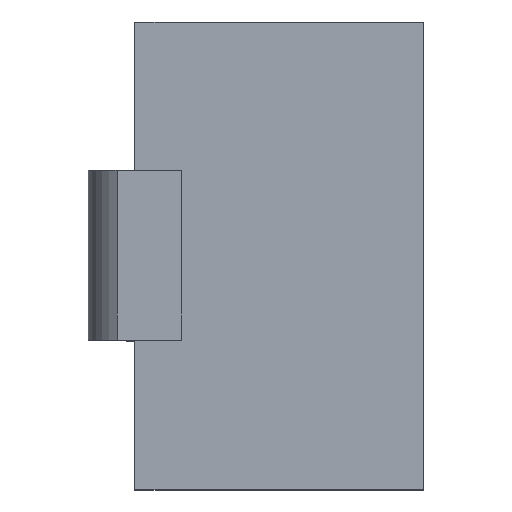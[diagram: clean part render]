
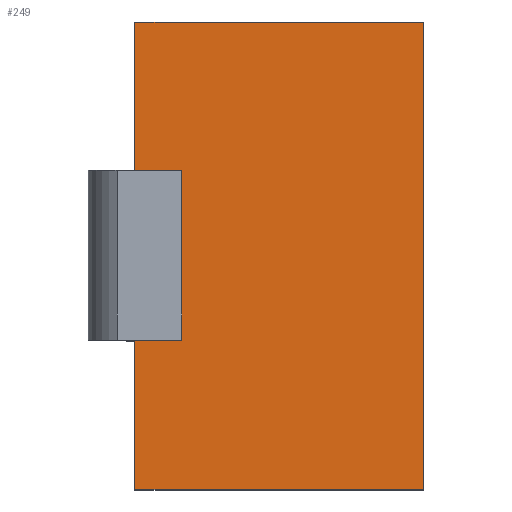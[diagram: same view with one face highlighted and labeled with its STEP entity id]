
A CAD part, top view. The second image highlights one B-rep face of the part: STEP entity #249.
In plain terms, the highlighted planar face has unit normal (0, 0, 1).
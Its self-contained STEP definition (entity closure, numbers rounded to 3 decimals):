
#21 = EDGE_CURVE('',#22,#24,#26,.T.);
#22 = VERTEX_POINT('',#23);
#23 = CARTESIAN_POINT('',(-32.5,4.5,4.85));
#24 = VERTEX_POINT('',#25);
#25 = CARTESIAN_POINT('',(-32.5,15.5,4.85));
#26 = SURFACE_CURVE('',#27,(#31,#43),.PCURVE_S1.);
#27 = LINE('',#28,#29);
#28 = CARTESIAN_POINT('',(-32.5,4.5,4.85));
#29 = VECTOR('',#30,1.);
#30 = DIRECTION('',(0.,1.,0.));
#31 = PCURVE('',#32,#37);
#32 = PLANE('',#33);
#33 = AXIS2_PLACEMENT_3D('',#34,#35,#36);
#34 = CARTESIAN_POINT('',(-32.5,4.5,-5.45));
#35 = DIRECTION('',(-1.,-0.,-0.));
#36 = DIRECTION('',(0.,0.,-1.));
#37 = DEFINITIONAL_REPRESENTATION('',(#38),#42);
#38 = LINE('',#39,#40);
#39 = CARTESIAN_POINT('',(-10.3,-0.));
#40 = VECTOR('',#41,1.);
#41 = DIRECTION('',(-0.,-1.));
#42 = ( GEOMETRIC_REPRESENTATION_CONTEXT(2) 
PARAMETRIC_REPRESENTATION_CONTEXT() REPRESENTATION_CONTEXT('2D SPACE',''
  ) );
#43 = PCURVE('',#44,#49);
#44 = PLANE('',#45);
#45 = AXIS2_PLACEMENT_3D('',#46,#47,#48);
#46 = CARTESIAN_POINT('',(-32.5,4.5,4.85));
#47 = DIRECTION('',(0.,0.,1.));
#48 = DIRECTION('',(1.,0.,0.));
#49 = DEFINITIONAL_REPRESENTATION('',(#50),#54);
#50 = LINE('',#51,#52);
#51 = CARTESIAN_POINT('',(0.,-0.));
#52 = VECTOR('',#53,1.);
#53 = DIRECTION('',(-0.,1.));
#54 = ( GEOMETRIC_REPRESENTATION_CONTEXT(2) 
PARAMETRIC_REPRESENTATION_CONTEXT() REPRESENTATION_CONTEXT('2D SPACE',''
  ) );
#72 = PLANE('',#73);
#73 = AXIS2_PLACEMENT_3D('',#74,#75,#76);
#74 = CARTESIAN_POINT('',(-32.5,4.5,-5.45));
#75 = DIRECTION('',(0.,1.,0.));
#76 = DIRECTION('',(0.,0.,-1.));
#238 = PLANE('',#239);
#239 = AXIS2_PLACEMENT_3D('',#240,#241,#242);
#240 = CARTESIAN_POINT('',(-32.5,15.5,-5.45));
#241 = DIRECTION('',(0.,1.,0.));
#242 = DIRECTION('',(0.,0.,-1.));
#249 = ADVANCED_FACE('',(#250),#44,.T.);
#250 = FACE_BOUND('',#251,.F.);
#251 = EDGE_LOOP('',(#252,#275,#276,#299,#327,#355,#383,#411));
#252 = ORIENTED_EDGE('',*,*,#253,.F.);
#253 = EDGE_CURVE('',#24,#254,#256,.T.);
#254 = VERTEX_POINT('',#255);
#255 = CARTESIAN_POINT('',(-39.3,15.5,4.85));
#256 = SURFACE_CURVE('',#257,(#261,#268),.PCURVE_S1.);
#257 = LINE('',#258,#259);
#258 = CARTESIAN_POINT('',(-32.5,15.5,4.85));
#259 = VECTOR('',#260,1.);
#260 = DIRECTION('',(-1.,-0.,-0.));
#261 = PCURVE('',#44,#262);
#262 = DEFINITIONAL_REPRESENTATION('',(#263),#267);
#263 = LINE('',#264,#265);
#264 = CARTESIAN_POINT('',(0.,11.));
#265 = VECTOR('',#266,1.);
#266 = DIRECTION('',(-1.,0.));
#267 = ( GEOMETRIC_REPRESENTATION_CONTEXT(2) 
PARAMETRIC_REPRESENTATION_CONTEXT() REPRESENTATION_CONTEXT('2D SPACE',''
  ) );
#268 = PCURVE('',#238,#269);
#269 = DEFINITIONAL_REPRESENTATION('',(#270),#274);
#270 = LINE('',#271,#272);
#271 = CARTESIAN_POINT('',(-10.3,-0.));
#272 = VECTOR('',#273,1.);
#273 = DIRECTION('',(-0.,1.));
#274 = ( GEOMETRIC_REPRESENTATION_CONTEXT(2) 
PARAMETRIC_REPRESENTATION_CONTEXT() REPRESENTATION_CONTEXT('2D SPACE',''
  ) );
#275 = ORIENTED_EDGE('',*,*,#21,.F.);
#276 = ORIENTED_EDGE('',*,*,#277,.T.);
#277 = EDGE_CURVE('',#22,#278,#280,.T.);
#278 = VERTEX_POINT('',#279);
#279 = CARTESIAN_POINT('',(-39.3,4.5,4.85));
#280 = SURFACE_CURVE('',#281,(#285,#292),.PCURVE_S1.);
#281 = LINE('',#282,#283);
#282 = CARTESIAN_POINT('',(-32.5,4.5,4.85));
#283 = VECTOR('',#284,1.);
#284 = DIRECTION('',(-1.,-0.,-0.));
#285 = PCURVE('',#44,#286);
#286 = DEFINITIONAL_REPRESENTATION('',(#287),#291);
#287 = LINE('',#288,#289);
#288 = CARTESIAN_POINT('',(0.,-0.));
#289 = VECTOR('',#290,1.);
#290 = DIRECTION('',(-1.,0.));
#291 = ( GEOMETRIC_REPRESENTATION_CONTEXT(2) 
PARAMETRIC_REPRESENTATION_CONTEXT() REPRESENTATION_CONTEXT('2D SPACE',''
  ) );
#292 = PCURVE('',#72,#293);
#293 = DEFINITIONAL_REPRESENTATION('',(#294),#298);
#294 = LINE('',#295,#296);
#295 = CARTESIAN_POINT('',(-10.3,-0.));
#296 = VECTOR('',#297,1.);
#297 = DIRECTION('',(-0.,1.));
#298 = ( GEOMETRIC_REPRESENTATION_CONTEXT(2) 
PARAMETRIC_REPRESENTATION_CONTEXT() REPRESENTATION_CONTEXT('2D SPACE',''
  ) );
#299 = ORIENTED_EDGE('',*,*,#300,.T.);
#300 = EDGE_CURVE('',#278,#301,#303,.T.);
#301 = VERTEX_POINT('',#302);
#302 = CARTESIAN_POINT('',(-39.3,8.,4.85));
#303 = SURFACE_CURVE('',#304,(#308,#315),.PCURVE_S1.);
#304 = LINE('',#305,#306);
#305 = CARTESIAN_POINT('',(-39.3,4.5,4.85));
#306 = VECTOR('',#307,1.);
#307 = DIRECTION('',(0.,1.,0.));
#308 = PCURVE('',#44,#309);
#309 = DEFINITIONAL_REPRESENTATION('',(#310),#314);
#310 = LINE('',#311,#312);
#311 = CARTESIAN_POINT('',(-6.8,0.));
#312 = VECTOR('',#313,1.);
#313 = DIRECTION('',(-0.,1.));
#314 = ( GEOMETRIC_REPRESENTATION_CONTEXT(2) 
PARAMETRIC_REPRESENTATION_CONTEXT() REPRESENTATION_CONTEXT('2D SPACE',''
  ) );
#315 = PCURVE('',#316,#321);
#316 = PLANE('',#317);
#317 = AXIS2_PLACEMENT_3D('',#318,#319,#320);
#318 = CARTESIAN_POINT('',(-39.3,4.5,-5.45));
#319 = DIRECTION('',(-1.,-0.,-0.));
#320 = DIRECTION('',(0.,0.,-1.));
#321 = DEFINITIONAL_REPRESENTATION('',(#322),#326);
#322 = LINE('',#323,#324);
#323 = CARTESIAN_POINT('',(-10.3,-0.));
#324 = VECTOR('',#325,1.);
#325 = DIRECTION('',(-0.,-1.));
#326 = ( GEOMETRIC_REPRESENTATION_CONTEXT(2) 
PARAMETRIC_REPRESENTATION_CONTEXT() REPRESENTATION_CONTEXT('2D SPACE',''
  ) );
#327 = ORIENTED_EDGE('',*,*,#328,.T.);
#328 = EDGE_CURVE('',#301,#329,#331,.T.);
#329 = VERTEX_POINT('',#330);
#330 = CARTESIAN_POINT('',(-38.2,8.,4.85));
#331 = SURFACE_CURVE('',#332,(#336,#343),.PCURVE_S1.);
#332 = LINE('',#333,#334);
#333 = CARTESIAN_POINT('',(-35.35,8.,4.85));
#334 = VECTOR('',#335,1.);
#335 = DIRECTION('',(1.,-0.,-0.));
#336 = PCURVE('',#44,#337);
#337 = DEFINITIONAL_REPRESENTATION('',(#338),#342);
#338 = LINE('',#339,#340);
#339 = CARTESIAN_POINT('',(-2.85,3.5));
#340 = VECTOR('',#341,1.);
#341 = DIRECTION('',(1.,-0.));
#342 = ( GEOMETRIC_REPRESENTATION_CONTEXT(2) 
PARAMETRIC_REPRESENTATION_CONTEXT() REPRESENTATION_CONTEXT('2D SPACE',''
  ) );
#343 = PCURVE('',#344,#349);
#344 = PLANE('',#345);
#345 = AXIS2_PLACEMENT_3D('',#346,#347,#348);
#346 = CARTESIAN_POINT('',(-38.2,8.,3.88));
#347 = DIRECTION('',(-0.,1.,-0.));
#348 = DIRECTION('',(0.,0.,-1.));
#349 = DEFINITIONAL_REPRESENTATION('',(#350),#354);
#350 = LINE('',#351,#352);
#351 = CARTESIAN_POINT('',(-0.97,-2.85));
#352 = VECTOR('',#353,1.);
#353 = DIRECTION('',(-0.,-1.));
#354 = ( GEOMETRIC_REPRESENTATION_CONTEXT(2) 
PARAMETRIC_REPRESENTATION_CONTEXT() REPRESENTATION_CONTEXT('2D SPACE',''
  ) );
#355 = ORIENTED_EDGE('',*,*,#356,.T.);
#356 = EDGE_CURVE('',#329,#357,#359,.T.);
#357 = VERTEX_POINT('',#358);
#358 = CARTESIAN_POINT('',(-38.2,12.,4.85));
#359 = SURFACE_CURVE('',#360,(#364,#371),.PCURVE_S1.);
#360 = LINE('',#361,#362);
#361 = CARTESIAN_POINT('',(-38.2,6.25,4.85));
#362 = VECTOR('',#363,1.);
#363 = DIRECTION('',(-0.,1.,-0.));
#364 = PCURVE('',#44,#365);
#365 = DEFINITIONAL_REPRESENTATION('',(#366),#370);
#366 = LINE('',#367,#368);
#367 = CARTESIAN_POINT('',(-5.7,1.75));
#368 = VECTOR('',#369,1.);
#369 = DIRECTION('',(0.,1.));
#370 = ( GEOMETRIC_REPRESENTATION_CONTEXT(2) 
PARAMETRIC_REPRESENTATION_CONTEXT() REPRESENTATION_CONTEXT('2D SPACE',''
  ) );
#371 = PCURVE('',#372,#377);
#372 = PLANE('',#373);
#373 = AXIS2_PLACEMENT_3D('',#374,#375,#376);
#374 = CARTESIAN_POINT('',(-38.2,8.,3.88));
#375 = DIRECTION('',(-1.,-0.,-0.));
#376 = DIRECTION('',(0.,0.,-1.));
#377 = DEFINITIONAL_REPRESENTATION('',(#378),#382);
#378 = LINE('',#379,#380);
#379 = CARTESIAN_POINT('',(-0.97,1.75));
#380 = VECTOR('',#381,1.);
#381 = DIRECTION('',(-0.,-1.));
#382 = ( GEOMETRIC_REPRESENTATION_CONTEXT(2) 
PARAMETRIC_REPRESENTATION_CONTEXT() REPRESENTATION_CONTEXT('2D SPACE',''
  ) );
#383 = ORIENTED_EDGE('',*,*,#384,.F.);
#384 = EDGE_CURVE('',#385,#357,#387,.T.);
#385 = VERTEX_POINT('',#386);
#386 = CARTESIAN_POINT('',(-39.3,12.,4.85));
#387 = SURFACE_CURVE('',#388,(#392,#399),.PCURVE_S1.);
#388 = LINE('',#389,#390);
#389 = CARTESIAN_POINT('',(-35.35,12.,4.85));
#390 = VECTOR('',#391,1.);
#391 = DIRECTION('',(1.,-0.,-0.));
#392 = PCURVE('',#44,#393);
#393 = DEFINITIONAL_REPRESENTATION('',(#394),#398);
#394 = LINE('',#395,#396);
#395 = CARTESIAN_POINT('',(-2.85,7.5));
#396 = VECTOR('',#397,1.);
#397 = DIRECTION('',(1.,-0.));
#398 = ( GEOMETRIC_REPRESENTATION_CONTEXT(2) 
PARAMETRIC_REPRESENTATION_CONTEXT() REPRESENTATION_CONTEXT('2D SPACE',''
  ) );
#399 = PCURVE('',#400,#405);
#400 = PLANE('',#401);
#401 = AXIS2_PLACEMENT_3D('',#402,#403,#404);
#402 = CARTESIAN_POINT('',(-38.2,12.,3.88));
#403 = DIRECTION('',(-0.,1.,-0.));
#404 = DIRECTION('',(0.,0.,-1.));
#405 = DEFINITIONAL_REPRESENTATION('',(#406),#410);
#406 = LINE('',#407,#408);
#407 = CARTESIAN_POINT('',(-0.97,-2.85));
#408 = VECTOR('',#409,1.);
#409 = DIRECTION('',(-0.,-1.));
#410 = ( GEOMETRIC_REPRESENTATION_CONTEXT(2) 
PARAMETRIC_REPRESENTATION_CONTEXT() REPRESENTATION_CONTEXT('2D SPACE',''
  ) );
#411 = ORIENTED_EDGE('',*,*,#412,.T.);
#412 = EDGE_CURVE('',#385,#254,#413,.T.);
#413 = SURFACE_CURVE('',#414,(#418,#425),.PCURVE_S1.);
#414 = LINE('',#415,#416);
#415 = CARTESIAN_POINT('',(-39.3,4.5,4.85));
#416 = VECTOR('',#417,1.);
#417 = DIRECTION('',(0.,1.,0.));
#418 = PCURVE('',#44,#419);
#419 = DEFINITIONAL_REPRESENTATION('',(#420),#424);
#420 = LINE('',#421,#422);
#421 = CARTESIAN_POINT('',(-6.8,0.));
#422 = VECTOR('',#423,1.);
#423 = DIRECTION('',(-0.,1.));
#424 = ( GEOMETRIC_REPRESENTATION_CONTEXT(2) 
PARAMETRIC_REPRESENTATION_CONTEXT() REPRESENTATION_CONTEXT('2D SPACE',''
  ) );
#425 = PCURVE('',#426,#431);
#426 = PLANE('',#427);
#427 = AXIS2_PLACEMENT_3D('',#428,#429,#430);
#428 = CARTESIAN_POINT('',(-39.3,4.5,-5.45));
#429 = DIRECTION('',(-1.,-0.,-0.));
#430 = DIRECTION('',(0.,0.,-1.));
#431 = DEFINITIONAL_REPRESENTATION('',(#432),#436);
#432 = LINE('',#433,#434);
#433 = CARTESIAN_POINT('',(-10.3,-0.));
#434 = VECTOR('',#435,1.);
#435 = DIRECTION('',(-0.,-1.));
#436 = ( GEOMETRIC_REPRESENTATION_CONTEXT(2) 
PARAMETRIC_REPRESENTATION_CONTEXT() REPRESENTATION_CONTEXT('2D SPACE',''
  ) );
